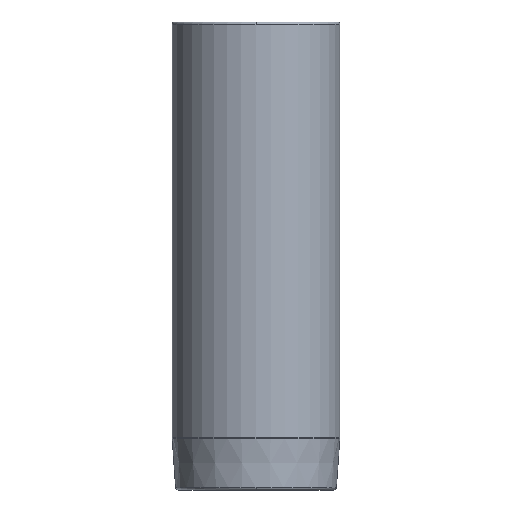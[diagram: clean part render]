
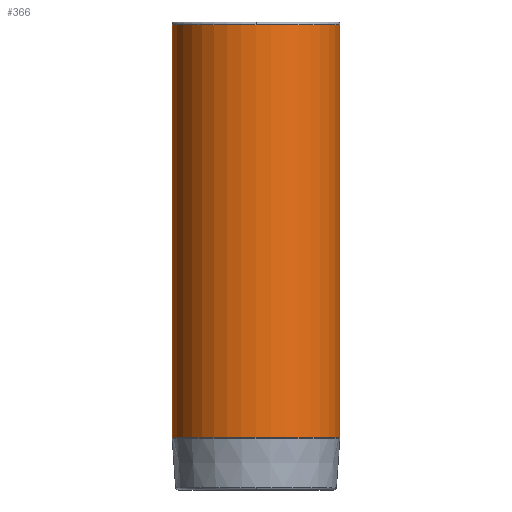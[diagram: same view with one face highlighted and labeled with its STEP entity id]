
A CAD part, front view. The second image highlights one B-rep face of the part: STEP entity #366.
In plain terms, the highlighted cylindrical face has radius 16.125 mm (diameter 32.25 mm), a partial arc.
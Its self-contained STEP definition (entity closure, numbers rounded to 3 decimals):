
#271=CARTESIAN_POINT('',(0.0,-16.125,47.5));
#272=VERTEX_POINT('',#271);
#298=CARTESIAN_POINT('',(-16.125,0.,47.5));
#299=VERTEX_POINT('',#298);
#307=CARTESIAN_POINT('',(0.0,0.,47.5));
#308=DIRECTION('',(0.0,0.0,1.0));
#309=DIRECTION('',(1.0,0.0,0.0));
#310=AXIS2_PLACEMENT_3D('',#307,#308,#309);
#311=CIRCLE('',#310,16.125);
#312=EDGE_CURVE('',#299,#272,#311,.T.);
#317=CARTESIAN_POINT('',(0.0,0.,7.767));
#318=DIRECTION('',(0.0,0.,1.0));
#319=DIRECTION('',(1.0,0.0,0.0));
#320=AXIS2_PLACEMENT_3D('',#317,#318,#319);
#321=CYLINDRICAL_SURFACE('',#320,16.125);
#322=CARTESIAN_POINT('',(16.125,0.,47.5));
#323=VERTEX_POINT('',#322);
#324=CARTESIAN_POINT('',(16.125,0.,-31.965));
#325=VERTEX_POINT('',#324);
#326=CARTESIAN_POINT('',(16.125,0.,47.5));
#327=DIRECTION('',(0.0,0.0,-1.0));
#328=VECTOR('',#327,79.465);
#329=LINE('',#326,#328);
#330=EDGE_CURVE('',#323,#325,#329,.T.);
#331=ORIENTED_EDGE('',*,*,#330,.F.);
#332=CARTESIAN_POINT('',(0.0,0.,47.5));
#333=DIRECTION('',(0.0,0.0,1.0));
#334=DIRECTION('',(1.0,0.0,0.0));
#335=AXIS2_PLACEMENT_3D('',#332,#333,#334);
#336=CIRCLE('',#335,16.125);
#337=EDGE_CURVE('',#272,#323,#336,.T.);
#338=ORIENTED_EDGE('',*,*,#337,.F.);
#339=ORIENTED_EDGE('',*,*,#312,.F.);
#340=CARTESIAN_POINT('',(-16.125,0.,-31.965));
#341=VERTEX_POINT('',#340);
#342=CARTESIAN_POINT('',(-16.125,0.,47.5));
#343=DIRECTION('',(0.0,0.0,-1.0));
#344=VECTOR('',#343,79.465);
#345=LINE('',#342,#344);
#346=EDGE_CURVE('',#299,#341,#345,.T.);
#347=ORIENTED_EDGE('',*,*,#346,.T.);
#348=CARTESIAN_POINT('',(0.0,-16.125,-31.965));
#349=VERTEX_POINT('',#348);
#350=CARTESIAN_POINT('',(0.0,0.,-31.965));
#351=DIRECTION('',(0.0,0.0,1.0));
#352=DIRECTION('',(1.0,0.0,0.0));
#353=AXIS2_PLACEMENT_3D('',#350,#351,#352);
#354=CIRCLE('',#353,16.125);
#355=EDGE_CURVE('',#341,#349,#354,.T.);
#356=ORIENTED_EDGE('',*,*,#355,.T.);
#357=CARTESIAN_POINT('',(0.0,0.,-31.965));
#358=DIRECTION('',(0.0,0.0,1.0));
#359=DIRECTION('',(1.0,0.0,0.0));
#360=AXIS2_PLACEMENT_3D('',#357,#358,#359);
#361=CIRCLE('',#360,16.125);
#362=EDGE_CURVE('',#349,#325,#361,.T.);
#363=ORIENTED_EDGE('',*,*,#362,.T.);
#364=EDGE_LOOP('',(#331,#338,#339,#347,#356,#363));
#365=FACE_OUTER_BOUND('',#364,.T.);
#366=ADVANCED_FACE('',(#365),#321,.T.);
